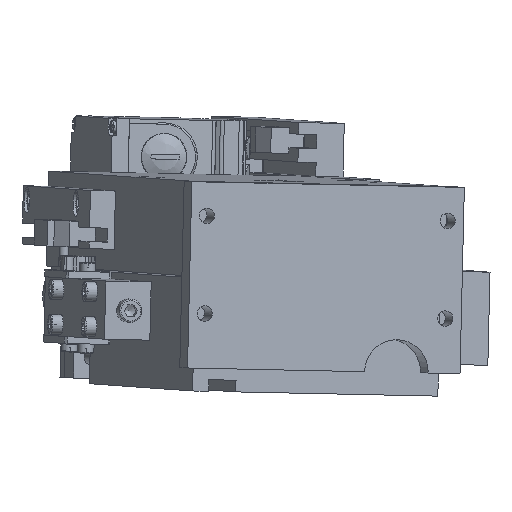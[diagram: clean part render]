
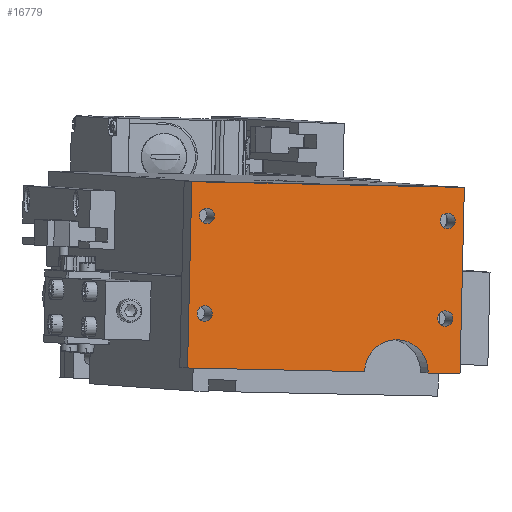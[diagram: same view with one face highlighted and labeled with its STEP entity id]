
A CAD part, front view. The second image highlights one B-rep face of the part: STEP entity #16779.
In plain terms, the highlighted planar face has unit normal (0.222, -0.975, -0.016).
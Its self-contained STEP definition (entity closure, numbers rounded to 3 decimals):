
#16443=CARTESIAN_POINT('',(80.492,-100.339,95.57));
#16444=VERTEX_POINT('',#16443);
#16445=CARTESIAN_POINT('',(77.252,-101.077,95.638));
#16446=DIRECTION('',(-0.222,0.975,0.016));
#16447=DIRECTION('',(0.975,0.222,-0.02));
#16448=AXIS2_PLACEMENT_3D('',#16445,#16446,#16447);
#16449=CIRCLE('',#16448,3.324);
#16450=EDGE_CURVE('',#16444,#16444,#16449,.T.);
#16484=CARTESIAN_POINT('',(-22.843,-123.858,97.736));
#16485=VERTEX_POINT('',#16484);
#16486=CARTESIAN_POINT('',(-26.083,-124.596,97.803));
#16487=DIRECTION('',(-0.222,0.975,0.016));
#16488=DIRECTION('',(0.975,0.222,-0.02));
#16489=AXIS2_PLACEMENT_3D('',#16486,#16487,#16488);
#16490=CIRCLE('',#16489,3.324);
#16491=EDGE_CURVE('',#16485,#16485,#16490,.T.);
#16541=CARTESIAN_POINT('',(81.474,-100.788,137.556));
#16542=VERTEX_POINT('',#16541);
#16543=CARTESIAN_POINT('',(78.234,-101.525,137.624));
#16544=DIRECTION('',(-0.222,0.975,0.016));
#16545=DIRECTION('',(0.975,0.222,-0.02));
#16546=AXIS2_PLACEMENT_3D('',#16543,#16544,#16545);
#16547=CIRCLE('',#16546,3.324);
#16548=EDGE_CURVE('',#16542,#16542,#16547,.T.);
#16590=CARTESIAN_POINT('',(-21.861,-124.307,139.722));
#16591=VERTEX_POINT('',#16590);
#16592=CARTESIAN_POINT('',(-25.101,-125.044,139.79));
#16593=DIRECTION('',(-0.222,0.975,0.016));
#16594=DIRECTION('',(0.975,0.222,-0.02));
#16595=AXIS2_PLACEMENT_3D('',#16592,#16593,#16594);
#16596=CIRCLE('',#16595,3.324);
#16597=EDGE_CURVE('',#16591,#16591,#16596,.T.);
#16607=CARTESIAN_POINT('',(85.397,-100.127,151.976));
#16608=VERTEX_POINT('',#16607);
#16609=CARTESIAN_POINT('',(83.527,-99.273,72.003));
#16610=VERTEX_POINT('',#16609);
#16611=CARTESIAN_POINT('',(85.397,-100.127,151.976));
#16612=DIRECTION('',(-0.023,0.011,-1.));
#16613=VECTOR('',#16612,80.0);
#16614=LINE('',#16611,#16613);
#16615=EDGE_CURVE('',#16608,#16610,#16614,.T.);
#16638=CARTESIAN_POINT('',(69.879,-102.379,72.289));
#16639=VERTEX_POINT('',#16638);
#16640=CARTESIAN_POINT('',(83.527,-99.273,72.003));
#16641=DIRECTION('',(-0.975,-0.222,0.02));
#16642=VECTOR('',#16641,14.);
#16643=LINE('',#16640,#16642);
#16644=EDGE_CURVE('',#16610,#16639,#16643,.T.);
#16662=CARTESIAN_POINT('',(42.583,-108.591,72.861));
#16663=VERTEX_POINT('',#16662);
#16664=CARTESIAN_POINT('',(56.231,-105.485,72.575));
#16665=DIRECTION('',(0.222,-0.975,-0.016));
#16666=DIRECTION('',(0.975,0.222,-0.02));
#16667=AXIS2_PLACEMENT_3D('',#16664,#16665,#16666);
#16668=CIRCLE('',#16667,14.);
#16669=EDGE_CURVE('',#16639,#16663,#16668,.T.);
#16687=CARTESIAN_POINT('',(-33.456,-125.898,74.454));
#16688=VERTEX_POINT('',#16687);
#16689=CARTESIAN_POINT('',(42.583,-108.591,72.861));
#16690=DIRECTION('',(-0.975,-0.222,0.02));
#16691=VECTOR('',#16690,78.);
#16692=LINE('',#16689,#16691);
#16693=EDGE_CURVE('',#16663,#16688,#16692,.T.);
#16711=CARTESIAN_POINT('',(-31.586,-126.752,154.428));
#16712=VERTEX_POINT('',#16711);
#16713=CARTESIAN_POINT('',(-33.456,-125.898,74.454));
#16714=DIRECTION('',(0.023,-0.011,1.));
#16715=VECTOR('',#16714,80.0);
#16716=LINE('',#16713,#16715);
#16717=EDGE_CURVE('',#16688,#16712,#16716,.T.);
#16735=CARTESIAN_POINT('',(-31.586,-126.752,154.428));
#16736=DIRECTION('',(0.975,0.222,-0.02));
#16737=VECTOR('',#16736,120.);
#16738=LINE('',#16735,#16737);
#16739=EDGE_CURVE('',#16712,#16608,#16738,.T.);
#16754=CARTESIAN_POINT('',(27.153,-112.732,112.503));
#16755=DIRECTION('',(0.222,-0.975,-0.016));
#16756=DIRECTION('',(0.975,0.222,-0.02));
#16757=AXIS2_PLACEMENT_3D('',#16754,#16755,#16756);
#16758=PLANE('',#16757);
#16759=ORIENTED_EDGE('',*,*,#16615,.F.);
#16760=ORIENTED_EDGE('',*,*,#16739,.F.);
#16761=ORIENTED_EDGE('',*,*,#16717,.F.);
#16762=ORIENTED_EDGE('',*,*,#16693,.F.);
#16763=ORIENTED_EDGE('',*,*,#16669,.F.);
#16764=ORIENTED_EDGE('',*,*,#16644,.F.);
#16765=EDGE_LOOP('',(#16759,#16760,#16761,#16762,#16763,#16764));
#16766=FACE_OUTER_BOUND('',#16765,.T.);
#16767=ORIENTED_EDGE('',*,*,#16450,.T.);
#16768=EDGE_LOOP('',(#16767));
#16769=FACE_BOUND('',#16768,.T.);
#16770=ORIENTED_EDGE('',*,*,#16491,.T.);
#16771=EDGE_LOOP('',(#16770));
#16772=FACE_BOUND('',#16771,.T.);
#16773=ORIENTED_EDGE('',*,*,#16548,.T.);
#16774=EDGE_LOOP('',(#16773));
#16775=FACE_BOUND('',#16774,.T.);
#16776=ORIENTED_EDGE('',*,*,#16597,.T.);
#16777=EDGE_LOOP('',(#16776));
#16778=FACE_BOUND('',#16777,.T.);
#16779=ADVANCED_FACE('',(#16766,#16769,#16772,#16775,#16778),#16758,.T.);
